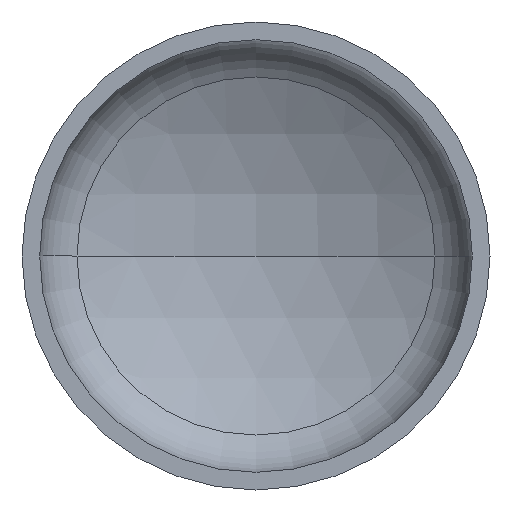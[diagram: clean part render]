
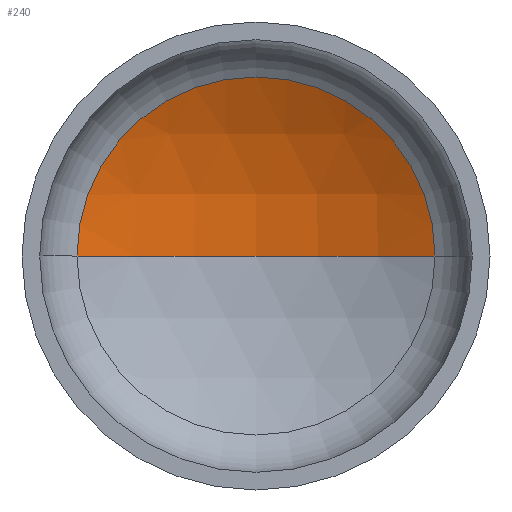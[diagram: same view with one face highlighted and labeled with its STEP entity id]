
A CAD part, front view. The second image highlights one B-rep face of the part: STEP entity #240.
In plain terms, the highlighted spherical face has radius 1440 mm.
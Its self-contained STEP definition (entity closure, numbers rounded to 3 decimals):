
#4 = ORIENTED_EDGE ( 'NONE', *, *, #166, .F. ) ;
#17 = ORIENTED_EDGE ( 'NONE', *, *, #151, .T. ) ;
#27 = CIRCLE ( 'NONE', #50, 1440. ) ;
#34 = VERTEX_POINT ( 'NONE', #230 ) ;
#36 = AXIS2_PLACEMENT_3D ( 'NONE', #321, #363, #112 ) ;
#50 = AXIS2_PLACEMENT_3D ( 'NONE', #346, #348, #313 ) ;
#54 = AXIS2_PLACEMENT_3D ( 'NONE', #222, #216, #181 ) ;
#60 = AXIS2_PLACEMENT_3D ( 'NONE', #234, #225, #224 ) ;
#65 = CIRCLE ( 'NONE', #60, 688.481 ) ;
#92 = VERTEX_POINT ( 'NONE', #393 ) ;
#112 = DIRECTION ( 'NONE',  ( -1., 0., 0. ) ) ;
#118 = EDGE_CURVE ( 'NONE', #129, #34, #65, .T. ) ;
#124 = EDGE_LOOP ( 'NONE', ( #4, #17, #139 ) ) ;
#129 = VERTEX_POINT ( 'NONE', #310 ) ;
#139 = ORIENTED_EDGE ( 'NONE', *, *, #118, .T. ) ;
#151 = EDGE_CURVE ( 'NONE', #92, #129, #180, .T. ) ;
#166 = EDGE_CURVE ( 'NONE', #92, #34, #27, .T. ) ;
#180 = CIRCLE ( 'NONE', #54, 1440. ) ;
#181 = DIRECTION ( 'NONE',  ( -1., 0., 0. ) ) ;
#216 = DIRECTION ( 'NONE',  ( 0., 0., -1. ) ) ;
#222 = CARTESIAN_POINT ( 'NONE',  ( 0., -903.218, 0. ) ) ;
#224 = DIRECTION ( 'NONE',  ( 1., 0., 0. ) ) ;
#225 = DIRECTION ( 'NONE',  ( 0., -1., 0. ) ) ;
#230 = CARTESIAN_POINT ( 'NONE',  ( -688.481, 361.532, 0. ) ) ;
#234 = CARTESIAN_POINT ( 'NONE',  ( 0., 361.532, 0. ) ) ;
#240 = ADVANCED_FACE ( 'NONE', ( #349 ), #294, .F. ) ;
#294 = SPHERICAL_SURFACE ( 'NONE', #36, 1440. ) ;
#310 = CARTESIAN_POINT ( 'NONE',  ( 688.481, 361.532, 0. ) ) ;
#313 = DIRECTION ( 'NONE',  ( 1., 0., 0. ) ) ;
#321 = CARTESIAN_POINT ( 'NONE',  ( 0., -903.218, 0. ) ) ;
#346 = CARTESIAN_POINT ( 'NONE',  ( 0., -903.218, 0. ) ) ;
#348 = DIRECTION ( 'NONE',  ( 0., 0., 1. ) ) ;
#349 = FACE_OUTER_BOUND ( 'NONE', #124, .T. ) ;
#363 = DIRECTION ( 'NONE',  ( 0., 0., -1. ) ) ;
#393 = CARTESIAN_POINT ( 'NONE',  ( 0., 536.782, 0. ) ) ;
